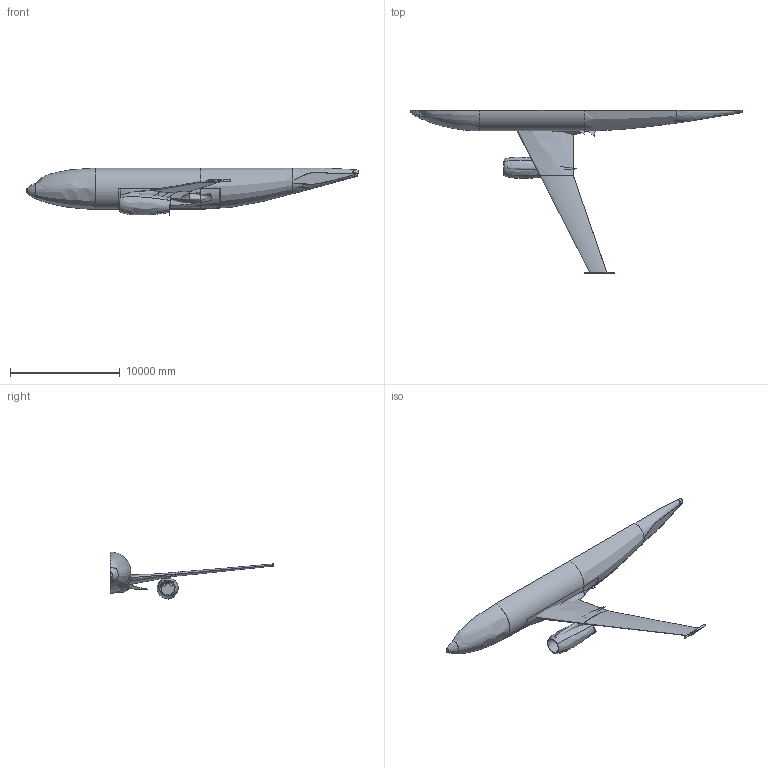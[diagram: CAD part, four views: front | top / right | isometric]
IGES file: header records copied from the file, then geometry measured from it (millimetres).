
Start section: This file was written from GridTool (For more information see ht tp://geolab.larc.nasa.gov/GridTool) or contact GridTool author: Jamshid Samareh (j.a.samareh@larc.nasa.gov)
Global section: file name: 139H/usr/sgi02/aero02/venkatasubban/TetrUSS_Projects/GridTool/Dr        agPredWork_3_June_2006/Geometries/FX2B_Fairing/Coarse_Grid/Surfa        ce/Project1.igs; native system: Jamshid_system(j.a.samareh@larc.nasa.gov); preprocessor: V.0.0.0.0.0; author: Jamshid_Samareh; organization: CSC; date: 13H1060510.082138; units: inch
Bounding box: 30319.9 x 14922.11 x 4371.98 mm (x, y, z)
Surface area: 397437863.3 mm2 (no closed solid volume)
Topology: 0 solids, 0 shells, 63 faces, 253 edges, 254 vertices
Faces by surface type: bspline 63
